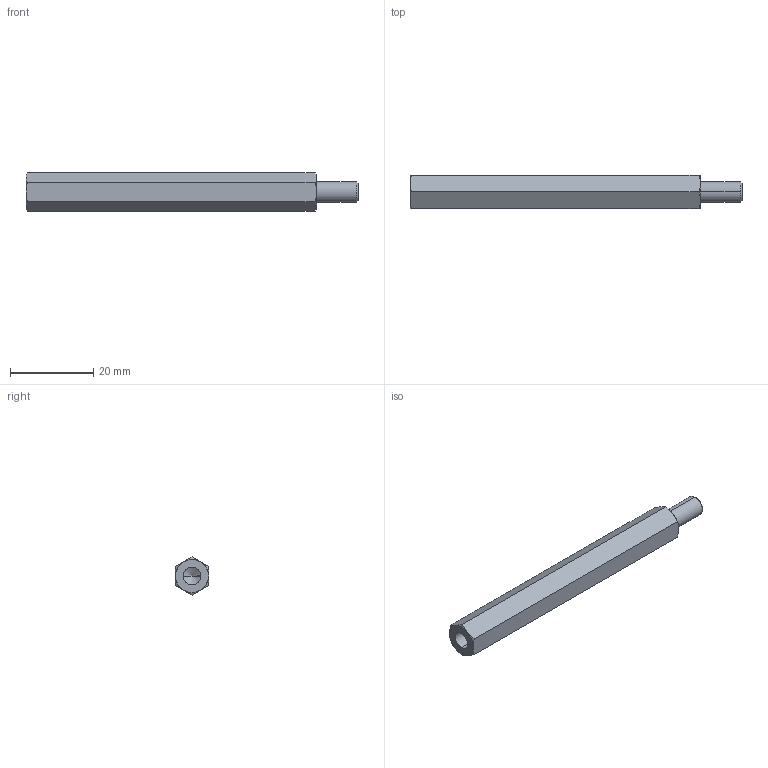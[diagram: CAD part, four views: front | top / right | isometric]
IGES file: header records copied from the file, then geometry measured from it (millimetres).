
Start section: SolidWorks IGES file using analytic representation for surfaces
Global section: file name: C:\Users\render1\Desktop\P0185_IGES\P0185.05-70.igs; native system: SolidWorks 2009; preprocessor: SolidWorks 2009; author: render1; date: 130627.112717; units: millimetre
Bounding box: 80 x 8 x 9.24 mm (x, y, z)
Surface area: 2332.8 mm2 (no closed solid volume)
Topology: 0 solids, 0 shells, 29 faces, 324 edges, 322 vertices
Faces by surface type: revolution 20, bspline 9
